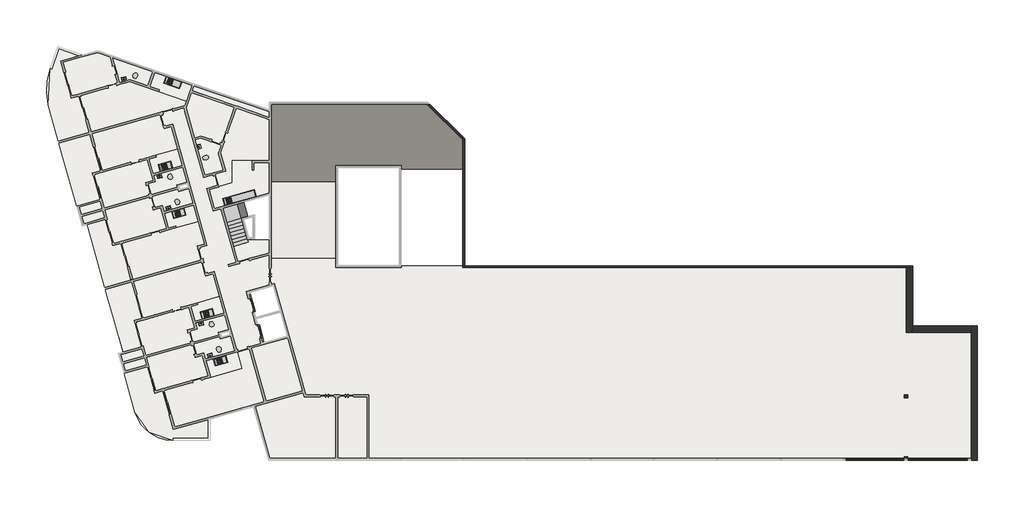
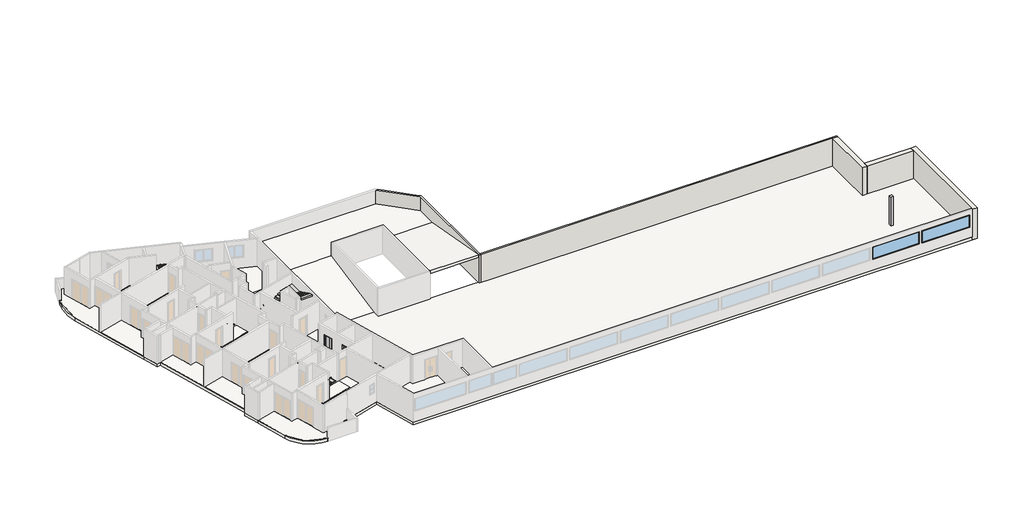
# One storey, part 4 of 4: 19 slabs, 18 flow terminals, 8 proxies, 6 walls, 2 columns, 2 windows, 1 stair flight.
"""IFC4 building model written with IfcOpenShell, lengths in millimetres."""

from ifc_helpers import new_model, si_unit, point, frame, frame_2d, origin, place, context, project, spatial, polyline, circle_curve, trimmed, segment, composite_curve, outline, extrude, faceted_brep, transform, mapped, element, save
from components import specialty_equipment_6c35da8b, specialty_equipment_77dfa124, rf_bancada_cozinha_rf_bancada_cozinha_340fef9f, rf_bancada_cozinha_rf_bancada_cozinha_cfb88ba1, rf_bancada_cozinha_rf_bancada_cozinha_2f873929, rf_bancada_cozinha_rf_bancada_cozinha_798ceddf, flow_terminal_cab7bae2, flow_terminal_3fb7dc42, flow_terminal_e42b9071, flow_terminal_c6e042c4, ap_01_creme_cr37_13e02e03, ap_01_creme_cr37_5ce6e54d, m_fixo1_jf_4_63m_5edc98cf, m_fixo1_jf_4_75m_a83b1cd6

model = new_model("IFC4")

# Units and contexts
model_context = context("Model", 3, world=origin())
ifc_project = project(units=[si_unit("LENGTHUNIT", "METRE", prefix="MILLI")], contexts=[model_context])

# Site, building, storey
site = spatial("IfcSite", under=ifc_project)
building = spatial("IfcBuilding", under=site)
storey = spatial("IfcBuildingStorey", under=building, Name="Garagem 2", Elevation=44950.0)

# Proxies
placement = place(None, origin())
specialty_equipment_shape = specialty_equipment_6c35da8b(model_context)
element("IfcBuildingElementProxy", 1, Name="Porta do elevador : Porta do elevador", ObjectType="Porta do elevador : Porta do elevador", at=placement, inside=storey, context=model_context, shape_type="MappedRepresentation", body=[
    mapped(specialty_equipment_shape, transform((-76594.4337486, 15747.4543727, 44950.0), x_axis=(0.27176796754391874, -0.9623628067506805, 0.0), y_axis=(0.9623628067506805, 0.27176796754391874, 0.0), z_axis=(0.0, 0.0, 1.0))),
])
specialty_equipment_2_shape = specialty_equipment_77dfa124(model_context)
element("IfcBuildingElementProxy", 2, Name="Porta do elevador : Porta do elevador", ObjectType="Porta do elevador : Porta do elevador", at=placement, inside=storey, context=model_context, shape_type="MappedRepresentation", body=[
    mapped(specialty_equipment_2_shape, transform((-75942.1906265, 13437.7836365, 44950.0), x_axis=(-0.27176796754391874, 0.9623628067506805, 0.0), y_axis=(-0.9623628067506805, -0.27176796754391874, 0.0), z_axis=(0.0, 0.0, 1.0))),
])
rf_bancada_cozinha_rf_bancada_cozinha_shape = rf_bancada_cozinha_rf_bancada_cozinha_340fef9f(model_context)
element("IfcBuildingElementProxy", 3, Name="RF_Bancada Cozinha : RF_Bancada Cozinha", ObjectType="RF_Bancada Cozinha : RF_Bancada Cozinha", at=placement, inside=storey, context=model_context, shape_type="MappedRepresentation", body=[
    mapped(rf_bancada_cozinha_rf_bancada_cozinha_shape, transform((-82760.548019, 26451.5820971, 45700.0), x_axis=(-0.9623628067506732, -0.27176796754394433, 0.0), y_axis=(0.27176796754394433, -0.9623628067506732, 0.0), z_axis=(0.0, 0.0, 1.0))),
])
element("IfcBuildingElementProxy", 4, Name="RF_Bancada Cozinha : RF_Bancada Cozinha", ObjectType="RF_Bancada Cozinha : RF_Bancada Cozinha", at=placement, inside=storey, context=model_context, shape_type="MappedRepresentation", body=[
    mapped(rf_bancada_cozinha_rf_bancada_cozinha_shape, transform((-79472.1556117, 14806.9921354, 45700.0), x_axis=(-0.9623628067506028, -0.2717679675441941, 0.0), y_axis=(0.2717679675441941, -0.9623628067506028, 0.0), z_axis=(0.0, 0.0, 1.0))),
])
rf_bancada_cozinha_rf_bancada_cozinha_2_shape = rf_bancada_cozinha_rf_bancada_cozinha_cfb88ba1(model_context)
element("IfcBuildingElementProxy", 5, Name="RF_Bancada Cozinha : RF_Bancada Cozinha", ObjectType="RF_Bancada Cozinha : RF_Bancada Cozinha", at=placement, inside=storey, context=model_context, shape_type="MappedRepresentation", body=[
    mapped(rf_bancada_cozinha_rf_bancada_cozinha_2_shape, transform((-81877.3021245, 23323.9029751, 45700.0), x_axis=(-0.9623628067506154, -0.27176796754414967, 0.0), y_axis=(0.27176796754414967, -0.9623628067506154, 0.0), z_axis=(0.0, 0.0, 1.0))),
])
element("IfcBuildingElementProxy", 6, Name="RF_Bancada Cozinha : RF_Bancada Cozinha", ObjectType="RF_Bancada Cozinha : RF_Bancada Cozinha", at=placement, inside=storey, context=model_context, shape_type="MappedRepresentation", body=[
    mapped(rf_bancada_cozinha_rf_bancada_cozinha_2_shape, transform((-78588.9097172, 11679.3130134, 45700.0), x_axis=(-0.9623628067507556, -0.27176796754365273, 0.0), y_axis=(0.27176796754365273, -0.9623628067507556, 0.0), z_axis=(0.0, 0.0, 1.0))),
])
rf_bancada_cozinha_rf_bancada_cozinha_3_shape = rf_bancada_cozinha_rf_bancada_cozinha_2f873929(model_context)
element("IfcBuildingElementProxy", 7, Name="RF_Bancada Cozinha : RF_Bancada Cozinha", ObjectType="RF_Bancada Cozinha : RF_Bancada Cozinha", at=placement, inside=storey, context=model_context, shape_type="MappedRepresentation", body=[
    mapped(rf_bancada_cozinha_rf_bancada_cozinha_3_shape, transform((-82030.0326121, 33293.9830661, 45700.0), x_axis=(-0.9449109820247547, 0.32732741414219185, 0.0), y_axis=(-0.32732741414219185, -0.9449109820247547, 0.0), z_axis=(0.0, 0.0, 1.0))),
])
rf_bancada_cozinha_rf_bancada_cozinha_4_shape = rf_bancada_cozinha_rf_bancada_cozinha_798ceddf(model_context)
element("IfcBuildingElementProxy", 8, Name="RF_Bancada Cozinha : RF_Bancada Cozinha", ObjectType="RF_Bancada Cozinha : RF_Bancada Cozinha", at=placement, inside=storey, context=model_context, shape_type="MappedRepresentation", body=[
    mapped(rf_bancada_cozinha_rf_bancada_cozinha_4_shape, transform((-76157.6622331, 24197.9763092, 45700.0), x_axis=(-0.9623628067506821, -0.27176796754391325, 0.0), y_axis=(0.27176796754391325, -0.9623628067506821, 0.0), z_axis=(0.0, 0.0, 1.0))),
])

# Columns
element("IfcColumn", 9, ObjectType="M_Concrete-Rectangular-Column : 0.25m", at=placement, inside=storey, context=model_context, shape_type="SweptSolid", body=[
    extrude(outline(polyline([(-24795.8696428, 3676.0495751), (-24795.8696428, 3426.0495751), (-25045.8696428, 3426.0495751), (-25045.8696428, 3676.0495751), (-24795.8696428, 3676.0495751)])), frame((0.0, 0.0, 44950.0), z_axis=(0.0, 0.0, 1.0), x_axis=(1.0, 0.0, 0.0)), (0.0, 0.0, 1.0), 2600.0),
])
element("IfcColumn", 10, ObjectType="M_Concrete-Rectangular-Column : 0.25m", at=placement, inside=storey, context=model_context, shape_type="SweptSolid", body=[
    extrude(outline(polyline([(-24795.8696428, 8561.0495751), (-24795.8696428, 8311.0495751), (-25045.8696428, 8311.0495751), (-25045.8696428, 8561.0495751), (-24795.8696428, 8561.0495751)])), frame((0.0, 0.0, 44950.0), z_axis=(0.0, 0.0, 1.0), x_axis=(1.0, 0.0, 0.0)), (0.0, 0.0, 1.0), 3052.3321935),
])

# Flow terminals
flow_terminal_shape = flow_terminal_cab7bae2(model_context)
element("IfcFlowTerminal", 11, ObjectType="RF_Pias : Pia da Bancada", at=placement, inside=storey, context=model_context, shape_type="MappedRepresentation", body=[
    mapped(flow_terminal_shape, transform((-83380.5102831, 26570.4992214, 44802.9), x_axis=(-0.9623628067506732, -0.27176796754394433, 0.0), y_axis=(0.27176796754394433, -0.9623628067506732, 0.0), z_axis=(0.0, 0.0, 1.0))),
])
element("IfcFlowTerminal", 12, ObjectType="RF_Pias : Pia da Bancada", at=placement, inside=storey, context=model_context, shape_type="MappedRepresentation", body=[
    mapped(flow_terminal_shape, transform((-80092.1178758, 14925.9092597, 44802.9), x_axis=(-0.9623628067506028, -0.2717679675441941, 0.0), y_axis=(0.2717679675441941, -0.9623628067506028, 0.0), z_axis=(0.0, 0.0, 1.0))),
])
element("IfcFlowTerminal", 13, ObjectType="RF_Pias : Pia da Bancada", at=placement, inside=storey, context=model_context, shape_type="MappedRepresentation", body=[
    mapped(flow_terminal_shape, transform((-78306.8185143, 23885.0542694, 44802.9), x_axis=(-0.9623628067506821, -0.27176796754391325, 0.0), y_axis=(0.27176796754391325, -0.9623628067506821, 0.0), z_axis=(0.0, 0.0, 1.0))),
])
flow_terminal_2_shape = flow_terminal_3fb7dc42(model_context)
element("IfcFlowTerminal", 14, ObjectType="Deca_Cuba de Apoio Retangular_L7300 : L.7300.17_Branco Gelo GE17", at=placement, inside=storey, context=model_context, shape_type="MappedRepresentation", body=[
    mapped(flow_terminal_2_shape, transform((-83090.0822283, 23308.7374016, 45700.0), x_axis=(-0.9623628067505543, -0.2717679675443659, 0.0), y_axis=(0.2717679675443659, -0.9623628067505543, 0.0), z_axis=(0.0, 0.0, 1.0))),
])
element("IfcFlowTerminal", 15, ObjectType="Deca_Cuba de Apoio Retangular_L7300 : L.7300.17_Branco Gelo GE17", at=placement, inside=storey, context=model_context, shape_type="MappedRepresentation", body=[
    mapped(flow_terminal_2_shape, transform((-79801.689821, 11664.1474399, 45700.0), x_axis=(-0.9623628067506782, -0.2717679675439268, 0.0), y_axis=(0.2717679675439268, -0.9623628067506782, 0.0), z_axis=(0.0, 0.0, 1.0))),
])
element("IfcFlowTerminal", 16, ObjectType="Deca_Cuba de Apoio Retangular_L7300 : L.7300.17_Branco Gelo GE17", at=placement, inside=storey, context=model_context, shape_type="MappedRepresentation", body=[
    mapped(flow_terminal_2_shape, transform((-80677.0991462, 28154.8020678, 45700.0), x_axis=(-0.2717679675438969, 0.9623628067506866, 0.0), y_axis=(-0.9623628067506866, -0.2717679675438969, 0.0), z_axis=(0.0, 0.0, 1.0))),
])
element("IfcFlowTerminal", 17, ObjectType="Deca_Cuba de Apoio Retangular_L7300 : L.7300.17_Branco Gelo GE17", at=placement, inside=storey, context=model_context, shape_type="MappedRepresentation", body=[
    mapped(flow_terminal_2_shape, transform((-86597.4204814, 33488.7004496, 45700.0), x_axis=(-0.9623628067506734, -0.27176796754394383, 0.0), y_axis=(0.27176796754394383, -0.9623628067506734, 0.0), z_axis=(0.0, 0.0, 1.0))),
])
flow_terminal_3_shape = flow_terminal_e42b9071(model_context)
element("IfcFlowTerminal", 18, ObjectType="Deca_Cuba de Apoio Retangular_L7300 : L.7300.17_Branco Gelo GE17", at=placement, inside=storey, context=model_context, shape_type="MappedRepresentation", body=[
    mapped(flow_terminal_3_shape, transform((-83802.1143033, 25830.1279553, 45700.0), x_axis=(-0.9623628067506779, -0.2717679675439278, 0.0), y_axis=(0.2717679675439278, -0.9623628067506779, 0.0), z_axis=(0.0, 0.0, 1.0))),
])
element("IfcFlowTerminal", 19, ObjectType="Deca_Cuba de Apoio Retangular_L7300 : L.7300.17_Branco Gelo GE17", at=placement, inside=storey, context=model_context, shape_type="MappedRepresentation", body=[
    mapped(flow_terminal_3_shape, transform((-80513.721896, 14185.5379936, 45700.0), x_axis=(-0.962362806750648, -0.27176796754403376, 0.0), y_axis=(0.27176796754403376, -0.962362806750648, 0.0), z_axis=(0.0, 0.0, 1.0))),
])
flow_terminal_4_shape = flow_terminal_c6e042c4(model_context)
element("IfcFlowTerminal", 20, ObjectType="RF_Pias : Pia da Bancada", at=placement, inside=storey, context=model_context, shape_type="MappedRepresentation", body=[
    mapped(flow_terminal_4_shape, transform((-82343.483233, 22898.2626745, 44802.9), x_axis=(-0.9623628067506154, -0.27176796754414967, 0.0), y_axis=(0.27176796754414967, -0.9623628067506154, 0.0), z_axis=(0.0, 0.0, 1.0))),
])
element("IfcFlowTerminal", 21, ObjectType="RF_Pias : Pia da Bancada", at=placement, inside=storey, context=model_context, shape_type="MappedRepresentation", body=[
    mapped(flow_terminal_4_shape, transform((-79055.0908257, 11253.6727129, 44802.9), x_axis=(-0.9623628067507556, -0.27176796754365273, 0.0), y_axis=(0.27176796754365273, -0.9623628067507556, 0.0), z_axis=(0.0, 0.0, 1.0))),
])
element("IfcFlowTerminal", 22, ObjectType="RF_Pias : Pia da Bancada", at=placement, inside=storey, context=model_context, shape_type="MappedRepresentation", body=[
    mapped(flow_terminal_4_shape, transform((-82939.3392028, 33309.5545572, 44802.9), x_axis=(-0.9449109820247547, 0.32732741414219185, 0.0), y_axis=(-0.32732741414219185, -0.9449109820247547, 0.0), z_axis=(0.0, 0.0, 1.0))),
])
ap_01_creme_cr37_shape = ap_01_creme_cr37_13e02e03(model_context)
element("IfcFlowTerminal", 23, ObjectType="Deca_Shared_Assento_P.900 : AP.01_Creme CR37", at=placement, inside=storey, context=model_context, shape_type="MappedRepresentation", body=[
    mapped(ap_01_creme_cr37_shape, transform((-83017.5301151, 25983.4740486, 45337.8723674), x_axis=(0.9623628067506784, 0.2717679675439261, 0.0), y_axis=(0.0, 0.0, 1.0), z_axis=(0.2717679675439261, -0.9623628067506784, 0.0))),
])
element("IfcFlowTerminal", 24, ObjectType="Deca_Shared_Assento_P.900 : AP.01_Creme CR37", at=placement, inside=storey, context=model_context, shape_type="MappedRepresentation", body=[
    mapped(ap_01_creme_cr37_shape, transform((-79729.1377078, 14338.8840869, 45337.8723674), x_axis=(0.962362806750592, 0.2717679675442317, 0.0), y_axis=(0.0, 0.0, 1.0), z_axis=(0.2717679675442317, -0.962362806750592, 0.0))),
])
element("IfcFlowTerminal", 25, ObjectType="Deca_Shared_Assento_P.900 : AP.01_Creme CR37", at=placement, inside=storey, context=model_context, shape_type="MappedRepresentation", body=[
    mapped(ap_01_creme_cr37_shape, transform((-80349.5164684, 27236.3600819, 45337.8723674), x_axis=(-0.271767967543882, 0.9623628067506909, 0.0), y_axis=(0.0, 0.0, 1.0), z_axis=(0.9623628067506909, 0.271767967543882, 0.0))),
])
element("IfcFlowTerminal", 26, ObjectType="Deca_Shared_Assento_P.900 : AP.01_Creme CR37", at=placement, inside=storey, context=model_context, shape_type="MappedRepresentation", body=[
    mapped(ap_01_creme_cr37_shape, transform((-85777.8760768, 33566.4131555, 45337.8723674), x_axis=(-0.9449109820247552, 0.3273274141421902, 0.0), y_axis=(0.0, 0.0, 1.0000000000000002), z_axis=(0.3273274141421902, 0.9449109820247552, 0.0))),
])
ap_01_creme_cr37_2_shape = ap_01_creme_cr37_5ce6e54d(model_context)
element("IfcFlowTerminal", 27, ObjectType="Deca_Shared_Assento_P.900 : AP.01_Creme CR37", at=placement, inside=storey, context=model_context, shape_type="MappedRepresentation", body=[
    mapped(ap_01_creme_cr37_2_shape, transform((-82341.1813229, 23588.4422577, 45337.8723674), x_axis=(0.9623628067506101, 0.27176796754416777, 0.0), y_axis=(0.0, 0.0, -1.0), z_axis=(-0.27176796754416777, 0.9623628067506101, 0.0))),
])
element("IfcFlowTerminal", 28, ObjectType="Deca_Shared_Assento_P.900 : AP.01_Creme CR37", at=placement, inside=storey, context=model_context, shape_type="MappedRepresentation", body=[
    mapped(ap_01_creme_cr37_2_shape, transform((-79052.7889156, 11943.852296, 45337.8723674), x_axis=(0.9623628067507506, 0.2717679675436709, 0.0), y_axis=(0.0, 0.0, -1.0000000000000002), z_axis=(-0.2717679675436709, 0.9623628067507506, 0.0))),
])

# Slabs
element("IfcSlab", 29, ObjectType="TZ_Piso de Áreas Molhadas", at=placement, inside=storey, context=model_context, shape_type="SweptSolid", body=[
    extrude(outline(composite_curve([segment(polyline([(-90765.4571774, 31984.341749), (-90143.7425806, 32159.9118263), (-89328.438678, 29272.823406), (-91766.0080564, 28584.4621444), (-92573.2320087, 31442.9384962)]), True, "CONTINUOUS"), segment(trimmed(circle_curve(frame_2d((-87414.5556743, 32622.5665107)), 5291.829908), [point((-92573.2320087, 31442.9384962))], [point((-92422.0860726, 34333.7366032))], False, "CARTESIAN"), True, "CONTINUOUS"), segment(polyline([(-92422.0860726, 34333.7366032), (-92280.2794148, 34284.6132387), (-91729.7010481, 35873.9929322), (-90151.0501028, 35327.1311202), (-91594.3494784, 34919.5483093), (-90765.4571774, 31984.341749)]), True, "CONTINUOUS")], self_intersect=False)), frame((0.0, 0.0, 44950.0), z_axis=(0.0, 0.0, 1.0), x_axis=(1.0, 0.0, 0.0)), (0.0, 0.0, 1.0), 20.0),
])
element("IfcSlab", 30, ObjectType="TZ_Piso de Áreas Molhadas", at=placement, inside=storey, context=model_context, shape_type="SweptSolid", body=[
    extrude(outline(polyline([(-88472.3695802, 26241.3805647), (-89094.084177, 26065.8104874), (-88509.7830468, 23996.7304529), (-90325.6378284, 23483.9392686), (-91725.2428613, 28440.1077234), (-89287.6734828, 29128.468985), (-88472.3695802, 26241.3805647)])), frame((0.0, 0.0, 44950.0), z_axis=(0.0, 0.0, 1.0), x_axis=(1.0, 0.0, 0.0)), (0.0, 0.0, 1.0), 20.0),
])
element("IfcSlab", 31, ObjectType="TZ_Piso de Áreas Molhadas", at=placement, inside=storey, context=model_context, shape_type="SweptSolid", body=[
    extrude(outline(polyline([(-86855.3501733, 20515.3218645), (-86040.0462707, 17628.2334443), (-88109.1263052, 17043.9323141), (-89508.731338, 22000.1007688), (-88061.3659003, 22408.8318218), (-87477.0647701, 20339.7517872), (-86855.3501733, 20515.3218645)])), frame((0.0, 0.0, 44950.0), z_axis=(0.0, 0.0, 1.0), x_axis=(1.0, 0.0, 0.0)), (0.0, 0.0, 1.0), 20.0),
])
element("IfcSlab", 32, ObjectType="TZ_Piso de Áreas Molhadas", at=placement, inside=storey, context=model_context, shape_type="SweptSolid", body=[
    extrude(outline(polyline([(-78926.5637691, 28284.9851582), (-79146.9727346, 27648.7205404), (-78771.1333302, 26317.8283554), (-80214.6775403, 25910.176404), (-81004.3851492, 28706.6252933), (-80530.2499593, 28840.5194505), (-78926.5637691, 28284.9851582)])), frame((0.0, 0.0, 44950.0), z_axis=(0.0, 0.0, 1.0), x_axis=(1.0, 0.0, 0.0)), (0.0, 0.0, 1.0), 20.0),
])
element("IfcSlab", 33, ObjectType="TZ_Piso de Áreas Molhadas", at=placement, inside=storey, context=model_context, shape_type="SweptSolid", body=[
    extrude(outline(polyline([(-78070.9150345, 27060.8243598), (-76493.6479314, 27060.8243598), (-76493.6479314, 26310.8243598), (-76343.6479314, 26310.8243598), (-76343.6479314, 26910.8243598), (-75147.8282189, 26910.8243598), (-75147.8282189, 24483.4871675), (-79467.3156296, 23263.6786855), (-79888.5559793, 24755.3410359), (-79127.7601479, 24970.1871785), (-79141.3485461, 25018.3053183), (-78070.9150345, 25320.5920836), (-78070.9150345, 27060.8243598)])), frame((0.0, 0.0, 44950.0), z_axis=(0.0, 0.0, 1.0), x_axis=(1.0, 0.0, 0.0)), (0.0, 0.0, 1.0), 20.0),
])
element("IfcSlab", 34, ObjectType="TZ_Piso de Áreas Molhadas", at=placement, inside=storey, context=model_context, shape_type="SweptSolid", body=[
    extrude(outline(polyline([(-84719.4810559, 32955.6762822), (-86137.8721095, 33447.0223292), (-86956.7711455, 33215.7680402), (-87515.4733556, 35194.1992432), (-84326.6881589, 34089.5694606), (-84719.4810559, 32955.6762822)])), frame((0.0, 0.0, 44950.0), z_axis=(0.0, 0.0, 1.0), x_axis=(1.0, 0.0, 0.0)), (0.0, 0.0, 1.0), 20.0),
])
element("IfcSlab", 35, ObjectType="TZ_Piso de Áreas Molhadas", at=placement, inside=storey, context=model_context, shape_type="SweptSolid", body=[
    extrude(outline(polyline([(-84577.7444086, 32906.57717), (-84184.9515116, 34040.4703485), (-81226.8582774, 33015.7547641), (-81668.7502865, 31740.1249383), (-83870.9147351, 32502.9785914), (-83821.815623, 32644.7152387), (-84577.7444086, 32906.57717)])), frame((0.0, 0.0, 44950.0), z_axis=(0.0, 0.0, 1.0), x_axis=(1.0, 0.0, 0.0)), (0.0, 0.0, 1.0), 20.0),
])
element("IfcSlab", 36, ObjectType="TZ_Piso de Áreas Molhadas", at=placement, inside=storey, context=model_context, shape_type="SweptSolid", body=[
    extrude(outline(polyline([(-81949.8925784, 26524.6420501), (-81623.7710174, 25369.806682), (-82432.1557751, 25141.5215893), (-82377.8021816, 24949.0490279), (-84456.5058441, 24362.030218), (-84701.0970149, 25228.1567441), (-84123.6793309, 25391.2175246), (-84259.5633146, 25872.398928), (-81949.8925784, 26524.6420501)])), frame((0.0, 0.0, 44950.0), z_axis=(0.0, 0.0, 1.0), x_axis=(1.0, 0.0, 0.0)), (0.0, 0.0, 1.0), 20.0),
])
element("IfcSlab", 37, ObjectType="TZ_Piso de Áreas Molhadas", at=placement, inside=storey, context=model_context, shape_type="SweptSolid", body=[
    extrude(outline(polyline([(-84089.7975819, 27479.0039186), (-82357.5445298, 27968.1862602), (-81990.6577736, 26668.9964711), (-84300.3285098, 26016.753349), (-84626.4500708, 27171.5887171), (-84049.0323868, 27334.6494976), (-84089.7975819, 27479.0039186)])), frame((0.0, 0.0, 44950.0), z_axis=(0.0, 0.0, 1.0), x_axis=(1.0, 0.0, 0.0)), (0.0, 0.0, 1.0), 20.0),
])
element("IfcSlab", 38, ObjectType="TZ_Piso de Áreas Molhadas", at=placement, inside=storey, context=model_context, shape_type="SweptSolid", body=[
    extrude(outline(polyline([(-84171.1494782, 23351.5492709), (-84415.740649, 24217.675797), (-82337.0369864, 24804.6946069), (-82282.6833929, 24612.2220455), (-81474.2986352, 24840.5071383), (-81148.1770742, 23685.6717702), (-83457.8478104, 23033.4286481), (-83593.7317942, 23514.6100514), (-84171.1494782, 23351.5492709)])), frame((0.0, 0.0, 44950.0), z_axis=(0.0, 0.0, 1.0), x_axis=(1.0, 0.0, 0.0)), (0.0, 0.0, 1.0), 20.0),
])
element("IfcSlab", 39, ObjectType="TZ_Piso de Áreas Molhadas", at=placement, inside=storey, context=model_context, shape_type="SweptSolid", body=[
    extrude(outline(composite_curve([segment(polyline([(-79945.4990038, 5119.4122055), (-82713.5540687, 5119.4122055), (-82713.5540687, 4969.4122055), (-82751.3896972, 4969.4122055)]), True, "CONTINUOUS"), segment(trimmed(circle_curve(frame_2d((-82751.3896972, 8069.4122055)), 3100.0), [point((-82751.3896972, 4969.4122055))], [point((-85734.7143981, 7226.9315061))], False, "CARTESIAN"), True, "CONTINUOUS"), segment(polyline([(-85734.7143981, 7226.9315061), (-86588.8282733, 10251.4506708), (-84772.9735093, 10764.2419177), (-84188.6722855, 8695.1618243), (-83566.957766, 8870.7319029), (-82710.8885369, 5839.2889958), (-79945.4990038, 6620.2256515), (-79945.4990038, 5119.4122055)]), True, "CONTINUOUS")], self_intersect=False)), frame((0.0, 0.0, 44950.0), z_axis=(0.0, 0.0, 1.0), x_axis=(1.0, 0.0, 0.0)), (0.0, 0.0, 1.0), 20.0),
])
element("IfcSlab", 40, ObjectType="TZ_Piso de Áreas Molhadas", at=placement, inside=storey, context=model_context, shape_type="SweptSolid", body=[
    extrude(outline(polyline([(-78185.906228, 13195.9171766), (-77859.7846669, 12041.0818085), (-80169.4554031, 11388.8386864), (-80305.3393869, 11870.0200898), (-80882.7570709, 11706.9593092), (-81127.3482417, 12573.0858353), (-79048.6445791, 13160.1046452), (-78994.2909856, 12967.6320839), (-78185.906228, 13195.9171766)])), frame((0.0, 0.0, 44950.0), z_axis=(0.0, 0.0, 1.0), x_axis=(1.0, 0.0, 0.0)), (0.0, 0.0, 1.0), 20.0),
])
element("IfcSlab", 41, ObjectType="TZ_Piso de Áreas Molhadas", at=placement, inside=storey, context=model_context, shape_type="SweptSolid", body=[
    extrude(outline(polyline([(-77307.7782946, 10638.3027935), (-79761.8034518, 9945.2944763), (-80128.690208, 11244.4842654), (-77674.6650508, 11937.4925826), (-77307.7782946, 10638.3027935)])), frame((0.0, 0.0, 44950.0), z_axis=(0.0, 0.0, 1.0), x_axis=(1.0, 0.0, 0.0)), (0.0, 0.0, 1.0), 20.0),
])
element("IfcSlab", 42, ObjectType="TZ_Piso de Áreas Molhadas", at=placement, inside=storey, context=model_context, shape_type="SweptSolid", body=[
    extrude(outline(polyline([(-81107.9410005, 23543.1910314), (-80740.5251229, 22242.1275601), (-82472.778175, 21752.9452185), (-82513.5433702, 21897.2996395), (-83090.9610542, 21734.238859), (-83418.0192411, 22888.8089065), (-81107.9410005, 23543.1910314)])), frame((0.0, 0.0, 44950.0), z_axis=(0.0, 0.0, 1.0), x_axis=(1.0, 0.0, 0.0)), (0.0, 0.0, 1.0), 20.0),
])
element("IfcSlab", 43, ObjectType="TZ_Piso de Áreas Molhadas", at=placement, inside=storey, context=model_context, shape_type="SweptSolid", body=[
    extrude(outline(polyline([(-85183.9771729, 14596.790603), (-85805.6917697, 14421.2205257), (-85221.3906395, 12352.1404912), (-86668.7560772, 11943.4094383), (-88068.36111, 16899.5778931), (-85999.2810755, 17483.8790233), (-85183.9771729, 14596.790603)])), frame((0.0, 0.0, 44950.0), z_axis=(0.0, 0.0, 1.0), x_axis=(1.0, 0.0, 0.0)), (0.0, 0.0, 1.0), 20.0),
])
element("IfcSlab", 44, ObjectType="TZ_Piso de Áreas Molhadas", at=placement, inside=storey, context=model_context, shape_type="SweptSolid", body=[
    extrude(outline(polyline([(-81412.7046076, 13583.5667824), (-80835.2869236, 13746.6275629), (-80971.1709074, 14227.8089663), (-78661.5001712, 14880.0520884), (-78335.3786101, 13725.2167203), (-79143.7633678, 13496.9316276), (-79089.4097743, 13304.4590662), (-81168.1134368, 12717.4402563), (-81412.7046076, 13583.5667824)])), frame((0.0, 0.0, 44950.0), z_axis=(0.0, 0.0, 1.0), x_axis=(1.0, 0.0, 0.0)), (0.0, 0.0, 1.0), 20.0),
])
element("IfcSlab", 45, ObjectType="TZ_Piso de Áreas Molhadas", at=placement, inside=storey, context=model_context, shape_type="SweptSolid", body=[
    extrude(outline(polyline([(-78701.7362448, 15022.5328272), (-81012.8731576, 14371.8995868), (-81338.0576635, 15526.9987554), (-80760.6399795, 15690.059536), (-80801.4051746, 15834.413957), (-79069.1521225, 16323.5962985), (-78701.7362448, 15022.5328272)])), frame((0.0, 0.0, 44950.0), z_axis=(0.0, 0.0, 1.0), x_axis=(1.0, 0.0, 0.0)), (0.0, 0.0, 1.0), 20.0),
])
element("IfcSlab", 46, ObjectType="TZ_Laje 30cm", at=placement, inside=storey, context=model_context, shape_type="SweptSolid", body=[
    extrude(outline(composite_curve([segment(polyline([(-82713.5540687, 4969.4122055), (-82751.3896972, 4969.4122055)]), True, "CONTINUOUS"), segment(trimmed(circle_curve(frame_2d((-82751.3896972, 8069.4122055)), 3100.0), [point((-82751.3896972, 4969.4122055))], [point((-85734.7143981, 7226.9315061))], False, "CARTESIAN"), True, "CONTINUOUS"), segment(polyline([(-85734.7143981, 7226.9315061), (-86588.8282747, 10251.4506758), (-86574.3928326, 10255.5271953), (-87018.7334595, 11828.9903844), (-86664.6795577, 11928.9739962), (-89512.8078575, 22014.5362109), (-89866.8617594, 21914.5525991), (-90311.2023863, 23488.0157882), (-90325.6378284, 23483.9392686), (-92573.2320087, 31442.9384962)]), True, "CONTINUOUS"), segment(trimmed(circle_curve(frame_2d((-87414.5556743, 32622.5665107)), 5291.829908), [point((-92573.2320087, 31442.9384962))], [point((-92426.4466323, 34320.9224218))], False, "CARTESIAN"), True, "CONTINUOUS"), segment(polyline([(-92426.4466323, 34320.9224218), (-92422.0160621, 34333.7123509), (-92403.1178425, 34327.1658026), (-91809.986912, 36039.3839237), (-89899.2062586, 35377.468778), (-88658.6666899, 35727.7929124), (-75017.8282189, 31002.4584964), (-75017.8282189, 19352.5140353), (-69748.6137209, 19352.5140353), (-69748.6137209, 18732.5140353), (-24398.6137209, 18732.5140353), (-24398.6137209, 13982.5140353), (-19298.6137209, 13982.5140353), (-19298.6137209, 3431.0495751), (-75180.5270822, 3431.0495751), (-76371.9880656, 7650.1551103), (-79815.4990038, 6677.7193903), (-79815.4990038, 4989.4122055), (-82713.5540687, 4989.4122055), (-82713.5540687, 4969.4122055)]), True, "CONTINUOUS")], self_intersect=False), holes=[polyline([(-81583.0058223, 25225.452261), (-82247.0361589, 25037.9323634), (-82179.094167, 24797.3416617), (-81515.0638304, 24984.8615593), (-81583.0058223, 25225.452261)]), polyline([(-78294.613415, 13580.8622993), (-78958.6437516, 13393.3424017), (-78890.7017597, 13152.7517), (-78226.6714231, 13340.2715976), (-78294.613415, 13580.8622993)]), polyline([(-74840.4856705, 17153.3066079), (-76760.3994699, 16611.1295126), (-76221.8794944, 14704.1660107), (-75646.150803, 12665.442005), (-73726.2370035, 13207.6191002), (-74270.7319215, 15135.7405865), (-74840.4856705, 17153.3066079)]), polyline([(-77952.9130698, 20291.1915783), (-76801.2963825, 20616.4041949), (-76858.5413412, 20819.1154254), (-75147.8282189, 20819.1154254), (-75147.8282189, 24343.0530162), (-78807.9060206, 23309.4595541), (-77952.9130698, 20291.1915783)])]), frame((0.0, 0.0, 44650.0), z_axis=(0.0, 0.0, 1.0), x_axis=(1.0, 0.0, 0.0)), (0.0, 0.0, 1.0), 300.0),
])
element("IfcSlab", 47, ObjectType="TZ_Rampa", at=placement, inside=storey, context=model_context, shape_type="Brep", body=[
    faceted_brep([(-59878.6137209, 28729.2690021, 46100.0), (-59878.6137209, 28729.2690021, 46400.0), (-59878.6137209, 26673.5266097, 46400.0), (-59878.6137209, 18732.5140353, 47850.0), (-59878.6137209, 18732.5140353, 47550.0), (-59878.6137209, 26673.5266097, 46100.0), (-64728.6137209, 18732.5140353, 47850.0), (-64728.6137209, 18732.5140353, 47550.0), (-64728.6137209, 26673.5266097, 46400.0), (-64728.6137209, 26673.5266097, 46100.0), (-69878.6137209, 26673.5266097, 46400.0), (-69878.6137209, 26673.5266097, 46100.0), (-69878.6137209, 19352.5140353, 44950.0), (-69878.6137209, 19352.5140353, 44650.0), (-74997.8282189, 19352.5140353, 44950.0), (-74997.8282189, 19352.5140353, 44650.0), (-74997.8282189, 26673.5266097, 46400.0), (-74997.8282189, 31523.8506069, 46400.0), (-74997.8282189, 31523.8506069, 46100.0), (-74997.8282189, 26673.5266097, 46100.0), (-62701.4234226, 31523.8506069, 46400.0), (-62701.4234226, 31523.8506069, 46100.0)], [[[0, 1, 2, 3, 4, 5]], [[4, 3, 6, 7]], [[7, 6, 8, 9]], [[9, 8, 10, 11]], [[11, 10, 12, 13]], [[13, 12, 14, 15]], [[15, 14, 16, 17, 18, 19]], [[18, 17, 20, 21]], [[21, 20, 1, 0]], [[6, 3, 2, 8]], [[7, 9, 5, 4]], [[1, 20, 17, 16, 10, 8, 2]], [[0, 5, 9, 11, 19, 18, 21]], [[14, 12, 10, 16]], [[15, 19, 11, 13]]]),
])

# Stair flight
element("IfcStairFlight", 48, ObjectType="Profundidade de 150mm", at=placement, inside=storey, context=model_context, shape_type="Brep", body=[
    faceted_brep([(-78029.0944782, 20560.1246789, 45088.0952381), (-77952.7808761, 20290.7249124, 45088.0952381), (-76802.2714069, 20616.6328483, 45088.0952381), (-76878.3664628, 20886.0945229, 45088.0952381), (-78029.0944782, 20560.1246789, 44950.0), (-77952.7808761, 20290.7249124, 44950.0), (-76802.2714069, 20616.6328483, 44950.0), (-76878.3664628, 20886.0945229, 44950.0), (-78105.4080802, 20829.5244453, 45226.1904762), (-78029.0944782, 20560.1246789, 45226.1904762), (-76878.3664628, 20886.0945229, 45226.1904762), (-76954.4615188, 21155.5561975, 45226.1904762), (-78105.4080802, 20829.5244453, 45058.939228), (-78045.2065482, 20617.0029783, 44950.0), (-76894.4323913, 20942.985893, 44950.0), (-76954.4615188, 21155.5561975, 45058.939228), (-78181.7216823, 21098.9242117, 45364.2857143), (-78105.4080802, 20829.5244453, 45364.2857143), (-76954.4615188, 21155.5561975, 45364.2857143), (-77030.5565747, 21425.017872, 45364.2857143), (-78181.7216823, 21098.9242117, 45197.0344661), (-77030.5565747, 21425.017872, 45197.0344661), (-78258.0352843, 21368.3239781, 45502.3809524), (-78181.7216823, 21098.9242117, 45502.3809524), (-77030.5565747, 21425.017872, 45502.3809524), (-77106.6516307, 21694.4795466, 45502.3809524), (-78258.0352843, 21368.3239781, 45335.1297042), (-77106.6516307, 21694.4795466, 45335.1297042), (-78334.3488864, 21637.7237445, 45640.4761905), (-78258.0352843, 21368.3239781, 45640.4761905), (-77106.6516307, 21694.4795466, 45640.4761905), (-77182.7466866, 21963.9412211, 45640.4761905), (-78334.3488864, 21637.7237445, 45473.2249423), (-77182.7466866, 21963.9412211, 45473.2249423), (-78410.6624885, 21907.1235109, 45778.5714286), (-78334.3488864, 21637.7237445, 45778.5714286), (-77182.7466866, 21963.9412211, 45778.5714286), (-77258.8417426, 22233.4028957, 45778.5714286), (-78410.6624885, 21907.1235109, 45611.3201804), (-77258.8417426, 22233.4028957, 45611.3201804), (-78486.9760905, 22176.5232773, 45916.6666667), (-78410.6624885, 21907.1235109, 45916.6666667), (-77258.8417426, 22233.4028957, 45916.6666667), (-77334.9367985, 22502.8645702, 45916.6666667), (-78486.9760905, 22176.5232773, 45749.4154185), (-77334.9367985, 22502.8645702, 45749.4154185), (-77650.6473278, 23620.8332322, 46054.7619048), (-78803.8582924, 23295.1703972, 46054.7619048), (-78572.8230038, 22479.5772253, 46054.7619048), (-78486.9760905, 22176.5232773, 46054.7619048), (-77334.9367985, 22502.8645702, 46054.7619048), (-77337.6544782, 22512.4881983, 46054.7619048), (-77650.6473278, 23620.8332322, 45904.7619048), (-78803.8582924, 23295.1703972, 45904.7619048), (-78572.8230038, 22479.5772253, 45904.7619048), (-77420.5378643, 22805.9881601, 45904.7619048), (-77337.6544782, 22512.4881983, 45904.7619048), (-77650.6473278, 23620.8332322, 46192.8571429), (-77337.6544782, 22512.4881983, 46192.8571429), (-77303.5536842, 22522.118146, 46192.8571429), (-77083.6709973, 22584.2122653, 46192.8571429), (-77396.6638468, 23692.5572992, 46192.8571429), (-77616.5465338, 23630.4631799, 46192.8571429), (-77396.6638468, 23692.5572992, 46019.0904432), (-77616.5465338, 23630.4631799, 45904.7619048), (-77303.5536842, 22522.118146, 45904.7619048), (-77083.6709973, 22584.2122653, 46019.0904432), (-77127.202261, 23768.6523301, 46330.952381), (-77396.6638468, 23692.5572992, 46330.952381), (-77083.6709973, 22584.2122653, 46330.952381), (-76814.2094114, 22660.3072962, 46330.952381), (-77127.202261, 23768.6523301, 46159.1976509), (-76814.2094114, 22660.3072962, 46159.1976509), (-76857.7406751, 23844.747361, 46469.047619), (-77127.202261, 23768.6523301, 46469.047619), (-76814.2094114, 22660.3072962, 46469.047619), (-76544.7478255, 22736.4023271, 46469.047619), (-76857.7406751, 23844.747361, 46299.3048586), (-76544.7478255, 22736.4023271, 46299.3048586), (-76588.2790892, 23920.842392, 46607.1428571), (-76857.7406751, 23844.747361, 46607.1428571), (-76544.7478255, 22736.4023271, 46607.1428571), (-76275.2862396, 22812.497358, 46607.1428571), (-76588.2790892, 23920.842392, 46439.4120663), (-75975.593386, 22897.1295956, 46595.2380952), (-76275.2862396, 22812.497358, 46595.2380952), (-75147.8282189, 22779.1154254, 46745.2380952), (-75147.8282189, 24327.6207947, 46745.2380952), (-76288.5862355, 24005.4746296, 46745.2380952), (-76588.2790892, 23920.842392, 46745.2380952), (-76275.2862396, 22812.497358, 46745.2380952), (-76275.2862396, 22779.1154254, 46745.2380952), (-75147.8282189, 22779.1154254, 46595.2380952), (-75147.8282189, 24327.6207947, 46595.2380952), (-76288.5862355, 24005.4746296, 46595.2380952), (-76275.2862396, 22779.1154254, 46595.2380952), (-75147.8282189, 22779.1154254, 46883.3333333), (-76275.2862396, 22779.1154254, 46883.3333333), (-76275.2862396, 22744.1370326, 46883.3333333), (-76275.2862396, 22499.1154254, 46883.3333333), (-75147.8282189, 22499.1154254, 46883.3333333), (-75147.8282189, 22744.1370326, 46883.3333333), (-75147.8282189, 22499.1154254, 46716.0820852), (-75147.8282189, 22744.1370326, 46595.2380952), (-76275.2862396, 22744.1370326, 46595.2380952), (-76275.2862396, 22499.1154254, 46716.0820852), (-75147.8282189, 22219.1154254, 47021.4285714), (-75147.8282189, 22499.1154254, 47021.4285714), (-76275.2862396, 22499.1154254, 47021.4285714), (-76275.2862396, 22219.1154254, 47021.4285714), (-75147.8282189, 22219.1154254, 46854.1773233), (-76275.2862396, 22219.1154254, 46854.1773233), (-75147.8282189, 21939.1154254, 47159.5238095), (-75147.8282189, 22219.1154254, 47159.5238095), (-76275.2862396, 22219.1154254, 47159.5238095), (-76275.2862396, 21939.1154254, 47159.5238095), (-75147.8282189, 21939.1154254, 46992.2725614), (-76275.2862396, 21939.1154254, 46992.2725614), (-75147.8282189, 21659.1154254, 47297.6190476), (-75147.8282189, 21939.1154254, 47297.6190476), (-76275.2862396, 21939.1154254, 47297.6190476), (-76275.2862396, 21659.1154254, 47297.6190476), (-75147.8282189, 21659.1154254, 47130.3677995), (-76275.2862396, 21659.1154254, 47130.3677995), (-75147.8282189, 21379.1154254, 47435.7142857), (-75147.8282189, 21659.1154254, 47435.7142857), (-76275.2862396, 21659.1154254, 47435.7142857), (-76275.2862396, 21379.1154254, 47435.7142857), (-75147.8282189, 21379.1154254, 47268.4630376), (-76275.2862396, 21379.1154254, 47268.4630376), (-75147.8282189, 21099.1154254, 47573.8095238), (-75147.8282189, 21379.1154254, 47573.8095238), (-76275.2862396, 21379.1154254, 47573.8095238), (-76275.2862396, 21099.1154254, 47573.8095238), (-75147.8282189, 21099.1154254, 47406.5582757), (-76275.2862396, 21099.1154254, 47406.5582757), (-75147.8282189, 20819.1154254, 47711.9047619), (-75147.8282189, 21099.1154254, 47711.9047619), (-76275.2862396, 21099.1154254, 47711.9047619), (-76275.2862396, 20819.1154254, 47711.9047619), (-75147.8282189, 20819.1154254, 47544.6535138), (-76275.2862396, 20819.1154254, 47544.6535138), (-76275.2862396, 23958.3777566, 46595.2380952)], [[[0, 1, 2, 3]], [[1, 0, 4, 5]], [[2, 1, 5, 6]], [[3, 2, 6, 7]], [[8, 9, 10, 11]], [[4, 0, 9, 8, 12, 13]], [[0, 3, 10, 9]], [[3, 7, 14, 15, 11, 10]], [[16, 17, 18, 19]], [[17, 16, 20, 12, 8]], [[8, 11, 18, 17]], [[19, 18, 11, 15, 21]], [[22, 23, 24, 25]], [[23, 22, 26, 20, 16]], [[16, 19, 24, 23]], [[25, 24, 19, 21, 27]], [[28, 29, 30, 31]], [[29, 28, 32, 26, 22]], [[22, 25, 30, 29]], [[31, 30, 25, 27, 33]], [[34, 35, 36, 37]], [[35, 34, 38, 32, 28]], [[28, 31, 36, 35]], [[37, 36, 31, 33, 39]], [[40, 41, 42, 43]], [[41, 40, 44, 38, 34]], [[34, 37, 42, 41]], [[43, 42, 37, 39, 45]], [[46, 47, 48, 49, 50, 51]], [[47, 46, 52, 53]], [[40, 49, 48, 47, 53, 54, 44]], [[40, 43, 50, 49]], [[51, 50, 43, 45, 55, 56]], [[57, 58, 59, 60, 61, 62]], [[46, 57, 62, 61, 63, 64, 52]], [[46, 51, 58, 57]], [[58, 51, 56, 65, 66, 60, 59]], [[67, 68, 69, 70]], [[68, 67, 71, 63, 61]], [[61, 60, 69, 68]], [[70, 69, 60, 66, 72]], [[73, 74, 75, 76]], [[74, 73, 77, 71, 67]], [[67, 70, 75, 74]], [[76, 75, 70, 72, 78]], [[79, 80, 81, 82]], [[80, 79, 83, 77, 73]], [[73, 76, 81, 80]], [[82, 81, 76, 78, 84, 85]], [[86, 87, 88, 89, 90, 91]], [[87, 86, 92, 93]], [[79, 89, 88, 87, 93, 94, 83]], [[79, 82, 90, 89]], [[91, 90, 82, 85, 95]], [[96, 97, 98, 99, 100, 101]], [[86, 96, 101, 100, 102, 103, 92]], [[86, 91, 97, 96]], [[97, 91, 95, 104, 105, 99, 98]], [[106, 107, 108, 109]], [[107, 106, 110, 102, 100]], [[100, 99, 108, 107]], [[109, 108, 99, 105, 111]], [[112, 113, 114, 115]], [[113, 112, 116, 110, 106]], [[106, 109, 114, 113]], [[115, 114, 109, 111, 117]], [[118, 119, 120, 121]], [[119, 118, 122, 116, 112]], [[112, 115, 120, 119]], [[121, 120, 115, 117, 123]], [[124, 125, 126, 127]], [[125, 124, 128, 122, 118]], [[118, 121, 126, 125]], [[127, 126, 121, 123, 129]], [[130, 131, 132, 133]], [[131, 130, 134, 128, 124]], [[124, 127, 132, 131]], [[133, 132, 127, 129, 135]], [[136, 137, 138, 139]], [[137, 136, 140, 134, 130]], [[130, 133, 138, 137]], [[139, 138, 133, 135, 141]], [[136, 139, 141, 140]], [[5, 4, 13, 14, 7, 6]], [[54, 55, 45, 39, 33, 27, 21, 15, 14, 13, 12, 20, 26, 32, 38, 44]], [[55, 54, 53, 52, 64, 65, 56]], [[65, 64, 63, 71, 77, 83, 94, 142, 84, 78, 72, 66]], [[142, 94, 93, 92, 103, 104, 95, 85, 84]], [[104, 103, 102, 110, 116, 122, 128, 134, 140, 141, 135, 129, 123, 117, 111, 105]]]),
])

# Walls
element("IfcWall", 49, ObjectType="Contenção 50cm - Externa", at=placement, inside=storey, context=model_context, shape_type="Brep", body=[
    faceted_brep([(-19778.6137209, 14002.5140353, 44650.0), (-19778.6137209, 3411.0495751, 44650.0), (-19778.6137209, 3411.0495751, 44950.0), (-19778.6137209, 3411.0495751, 47850.0), (-19778.6137209, 3561.0495751, 47850.0), (-19778.6137209, 13502.5140353, 47850.0), (-19778.6137209, 14002.5140353, 47850.0), (-19778.6137209, 14002.5140353, 44950.0), (-19278.6137209, 14002.5140353, 44650.0), (-19278.6137209, 14002.5140353, 47850.0), (-19278.6137209, 3411.0495751, 47850.0), (-19278.6137209, 3411.0495751, 44650.0)], [[[0, 1, 2, 3, 4, 5, 6, 7]], [[8, 9, 10, 11]], [[1, 0, 8, 11]], [[6, 5, 4, 3, 10, 9]], [[3, 2, 1, 11, 10]], [[0, 7, 6, 9, 8]]]),
])
element("IfcWall", 50, ObjectType="Básica .15 - Externa", at=placement, inside=storey, context=model_context, shape_type="Brep", body=[
    faceted_brep([(-59878.6137209, 28940.3430413, 44950.0), (-59878.6137209, 28729.2690021, 44950.0), (-59878.6137209, 18602.5140353, 44950.0), (-59878.6137209, 18602.5140353, 47850.0), (-59878.6137209, 28729.2690021, 47850.0), (-59878.6137209, 28940.3430413, 47850.0), (-59728.6137209, 28791.8430413, 44950.0), (-59728.6137209, 28791.8430413, 47850.0), (-59728.6137209, 18752.5140353, 47850.0), (-59728.6137209, 18602.5140353, 47850.0), (-59728.6137209, 18602.5140353, 44950.0), (-59728.6137209, 18752.5140353, 44950.0)], [[[0, 1, 2, 3, 4, 5]], [[6, 7, 8, 9, 10, 11]], [[2, 1, 0, 6, 11, 10]], [[5, 4, 3, 9, 8, 7]], [[0, 5, 7, 6]], [[3, 2, 10, 9]]]),
])
element("IfcWall", 51, ObjectType="Básica .15 - Externa", at=placement, inside=storey, context=model_context, shape_type="SweptSolid", body=[
    extrude(outline(polyline([(-59878.6137209, 28729.2690021), (-62701.4234226, 31523.8506069), (-62488.2173225, 31523.8506069), (-59878.6137209, 28940.3430413), (-59878.6137209, 28729.2690021)])), frame((0.0, 0.0, 44950.0), z_axis=(0.0, 0.0, 1.0), x_axis=(1.0, 0.0, 0.0)), (0.0, 0.0, 1.0), 2900.0),
])
element("IfcWall", 52, ObjectType="Básica .15 - Externa", at=placement, inside=storey, context=model_context, shape_type="Brep", body=[
    faceted_brep([(-24378.6137209, 18752.5140353, 44950.0), (-59728.6137209, 18752.5140353, 44950.0), (-59728.6137209, 18752.5140353, 47850.0), (-24378.6137209, 18752.5140353, 47850.0), (-24378.6137209, 18602.5140353, 44950.0), (-24378.6137209, 18602.5140353, 47850.0), (-24878.6137209, 18602.5140353, 47850.0), (-59728.6137209, 18602.5140353, 47850.0), (-59728.6137209, 18602.5140353, 44950.0), (-24878.6137209, 18602.5140353, 44950.0)], [[[0, 1, 2, 3]], [[4, 5, 6, 7, 8, 9]], [[1, 0, 4, 9, 8]], [[3, 2, 7, 6, 5]], [[0, 3, 5, 4]], [[2, 1, 8, 7]]]),
])
element("IfcWall", 53, ObjectType="Contenção 50cm - Externa", at=placement, inside=storey, context=model_context, shape_type="Brep", body=[
    faceted_brep([(-24878.6137209, 18602.5140353, 44950.0), (-24878.6137209, 13502.5140353, 44950.0), (-24878.6137209, 13502.5140353, 47850.0), (-24878.6137209, 18602.5140353, 47850.0), (-24378.6137209, 18602.5140353, 44950.0), (-24378.6137209, 18602.5140353, 47850.0), (-24378.6137209, 14002.5140353, 47850.0), (-24378.6137209, 13502.5140353, 47850.0), (-24378.6137209, 13502.5140353, 44950.0), (-24378.6137209, 14002.5140353, 44950.0)], [[[0, 1, 2, 3]], [[4, 5, 6, 7, 8, 9]], [[1, 0, 4, 9, 8]], [[3, 2, 7, 6, 5]], [[2, 1, 8, 7]], [[0, 3, 5, 4]]]),
])
element("IfcWall", 54, ObjectType="Contenção 50cm - Externa", at=placement, inside=storey, context=model_context, shape_type="SweptSolid", body=[
    extrude(outline(polyline([(-19778.6137209, 13502.5140353), (-24378.6137209, 13502.5140353), (-24378.6137209, 14002.5140353), (-19778.6137209, 14002.5140353), (-19778.6137209, 13502.5140353)])), frame((0.0, 0.0, 44950.0), z_axis=(0.0, 0.0, 1.0), x_axis=(1.0, 0.0, 0.0)), (0.0, 0.0, 1.0), 2900.0),
])

# Windows
m_fixo1_jf_4_63m_shape = m_fixo1_jf_4_63m_5edc98cf(model_context)
element("IfcWindow", 55, ObjectType="M_Fixo1 : JF - 4.63m", at=placement, inside=storey, context=model_context, shape_type="MappedRepresentation", body=[
    mapped(m_fixo1_jf_4_63m_shape, transform((-27360.8696428, 3499.0495751, 45135.0), x_axis=(-1.0, 0.0, 0.0), y_axis=(0.0, -1.0, 0.0), z_axis=(0.0, 0.0, 1.0))),
])
m_fixo1_jf_4_75m_shape = m_fixo1_jf_4_75m_a83b1cd6(model_context)
element("IfcWindow", 56, ObjectType="M_Fixo1 : JF - 4.75m", at=placement, inside=storey, context=model_context, shape_type="MappedRepresentation", body=[
    mapped(m_fixo1_jf_4_75m_shape, transform((-22420.8696428, 3499.0495751, 45135.0), x_axis=(-1.0, 0.0, 0.0), y_axis=(0.0, -1.0, 0.0), z_axis=(0.0, 0.0, 1.0))),
])

save(model, "model.ifc")
